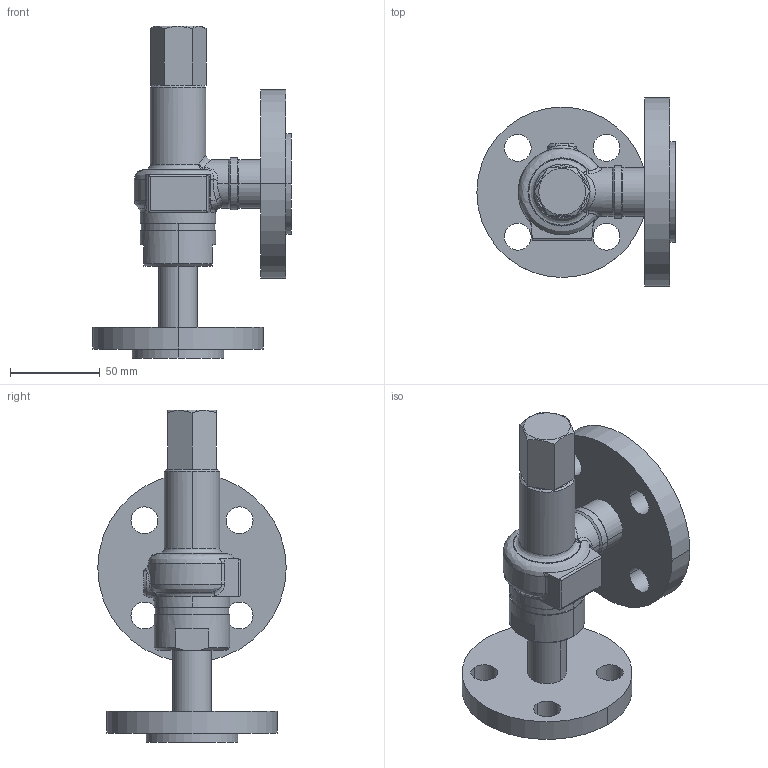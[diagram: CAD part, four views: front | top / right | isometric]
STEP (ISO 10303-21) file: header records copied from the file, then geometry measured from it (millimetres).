
FILE_DESCRIPTION( (''), '2;1');
FILE_NAME ('PC1027.9568.AL-32 15A_3242.stp','2025-07-28T13:15:13',(''),(''),'spGate 19.8.4 (****-****-****-****)','','');
FILE_SCHEMA (('AUTOMOTIVE_DESIGN'));
Length unit declared in the file: millimetre
Products named in the file (2): Assembly; AL-32 15A-3D
Assembly tree (1 placements, depth 2):
  Assembly
    AL-32 15A-3D
Bounding box: 110.5 x 105 x 185 mm (x, y, z)
Volume: 361071.3 mm3; surface area: 67995.4 mm2
Topology: 1 solids, 1 shells, 140 faces, 342 edges, 213 vertices
Faces by surface type: cylinder 54, plane 43, bspline 39, sphere 4
Entity records: 8608 total; most frequent: CARTESIAN_POINT 2803, ORIENTED_EDGE 684, DIRECTION 586, COLOUR_RGB 483, PRESENTATION_STYLE_ASSIGNMENT 483, STYLED_ITEM 483, EDGE_CURVE 342, DRAUGHTING_PRE_DEFINED_CURVE_FONT 342
